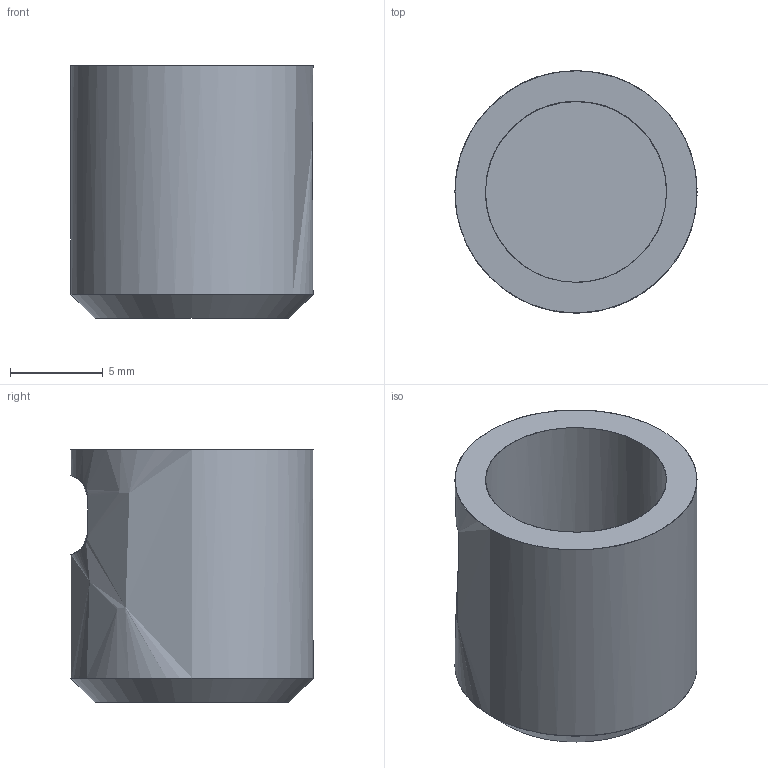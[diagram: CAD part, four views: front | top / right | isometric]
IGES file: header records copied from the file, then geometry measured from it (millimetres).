
Global section: file name: E:\M1337\M1337 Remodel\Metric\Crank\IGES Files\Crank Arm Plunger Metric.igs; native system: NX V2007; preprocessor: SIEMENS PLM Software NX 2027; date: 20260825.200324; units: millimetre
Bounding box: 13.05 x 13.05 x 13.61 mm (x, y, z)
Surface area: 1037.1 mm2 (no closed solid volume)
Topology: 0 solids, 0 shells, 11 faces, 94 edges, 126 vertices
Faces by surface type: bspline 11
